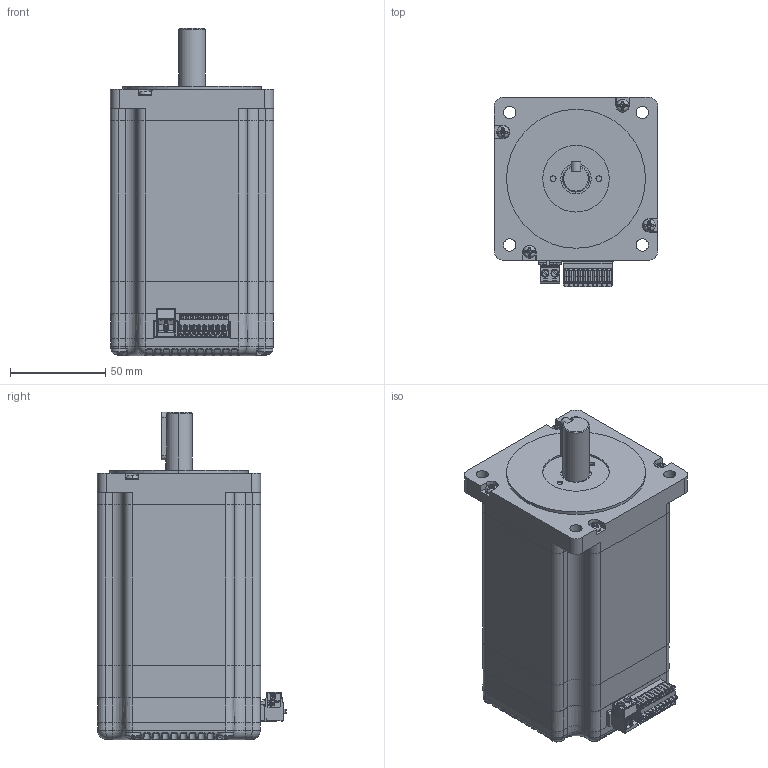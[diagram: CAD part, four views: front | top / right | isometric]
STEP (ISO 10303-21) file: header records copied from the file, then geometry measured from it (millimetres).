
FILE_DESCRIPTION (( 'STEP AP214' ), '1' );
FILE_NAME ('IC86E85.STEP', '2022-11-10T02:09:30', ( '' ), ( '' ), 'SwSTEP 2.0', 'SolidWorks 2022', '' );
FILE_SCHEMA (( 'AUTOMOTIVE_DESIGN' ));
Length unit declared in the file: millimetre
Products named in the file (6): IC86驱动器2; 5.08x2p-GR-脣芛; M4_PreviewCfg; IC86E85; IC86电机_装配模型使用; 傷赽脣芛
Assembly tree (8 placements, depth 2):
  IC86E85
    IC86电机_装配模型使用
    IC86驱动器2
    5.08x2p-GR-脣芛
    傷赽脣芛
    M4_PreviewCfg  x4
Bounding box: 85.8 x 99.5 x 172 mm (x, y, z)
Volume: 853916.9 mm3; surface area: 122341.5 mm2
Topology: 12 solids, 12 shells, 5794 faces, 15705 edges, 10089 vertices
Faces by surface type: plane 3614, cylinder 1305, bspline 467, cone 215, torus 127, sphere 66
Entity records: 259509 total; most frequent: CARTESIAN_POINT 64991, ORIENTED_EDGE 30910, DIRECTION 27212, EDGE_CURVE 15455, VECTOR 10896, LINE 10896, VERTEX_POINT 9957, AXIS2_PLACEMENT_3D 8158
